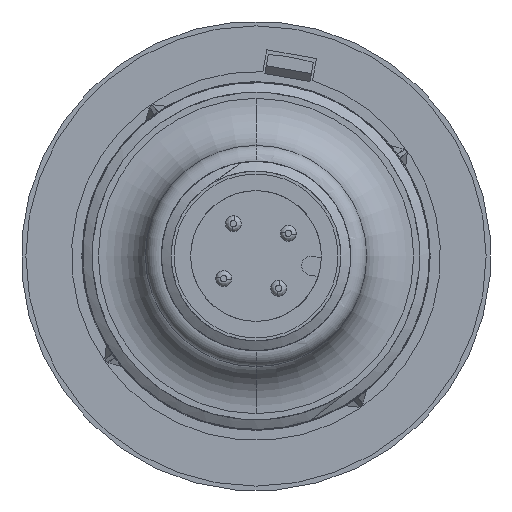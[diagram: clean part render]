
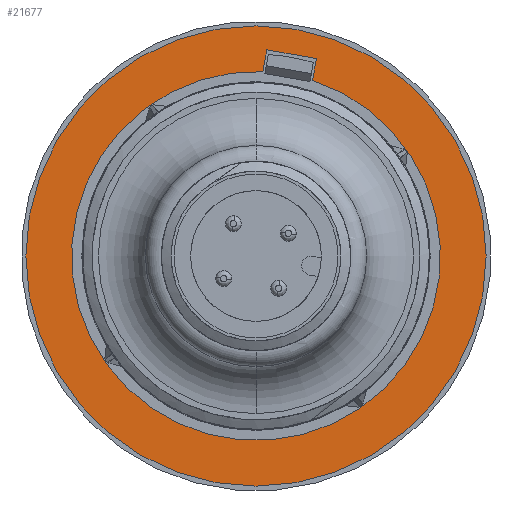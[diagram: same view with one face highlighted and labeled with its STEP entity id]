
A CAD part, front view. The second image highlights one B-rep face of the part: STEP entity #21677.
In plain terms, the highlighted planar face has unit normal (0, -1, 0).
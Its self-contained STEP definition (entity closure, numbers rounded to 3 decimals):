
#302=CARTESIAN_POINT('',(0.,-1.9,0.));
#303=DIRECTION('',(0.,1.,0.));
#304=DIRECTION('',(0.985,0.,-0.174));
#305=AXIS2_PLACEMENT_3D('',#302,#303,#304);
#307=CARTESIAN_POINT('',(0.,-1.9,0.));
#308=DIRECTION('',(0.,1.,0.));
#309=DIRECTION('',(-0.985,0.,0.174));
#310=AXIS2_PLACEMENT_3D('',#307,#308,#309);
#312=DIRECTION('',(0.174,0.,0.985));
#313=VECTOR('',#312,1.41);
#314=CARTESIAN_POINT('',(0.437,-1.9,11.692));
#315=LINE('',#314,#313);
#316=DIRECTION('',(-0.174,0.,-0.985));
#317=VECTOR('',#316,1.41);
#318=CARTESIAN_POINT('',(3.833,-1.9,12.525));
#319=LINE('',#318,#317);
#320=DIRECTION('',(0.985,0.,-0.174));
#321=VECTOR('',#320,3.2);
#322=CARTESIAN_POINT('',(0.682,-1.9,13.08));
#323=LINE('',#322,#321);
#508=CARTESIAN_POINT('',(0.,-1.9,0.));
#509=DIRECTION('',(0.,1.,0.));
#510=DIRECTION('',(0.307,0.,0.952));
#511=AXIS2_PLACEMENT_3D('',#508,#509,#510);
#20236=CARTESIAN_POINT('',(14.378,-1.9,-2.535));
#20237=CARTESIAN_POINT('',(-14.378,-1.9,2.535));
#20238=VERTEX_POINT('',#20236);
#20239=VERTEX_POINT('',#20237);
#20240=CARTESIAN_POINT('',(0.437,-1.9,11.692));
#20241=CARTESIAN_POINT('',(0.682,-1.9,13.08));
#20242=VERTEX_POINT('',#20240);
#20243=VERTEX_POINT('',#20241);
#20244=CARTESIAN_POINT('',(3.833,-1.9,12.525));
#20245=VERTEX_POINT('',#20244);
#20246=CARTESIAN_POINT('',(3.588,-1.9,11.136));
#20247=VERTEX_POINT('',#20246);
#21658=CARTESIAN_POINT('',(0.,-1.9,0.));
#21659=DIRECTION('',(0.,1.,0.));
#21660=DIRECTION('',(0.985,0.,-0.174));
#21661=AXIS2_PLACEMENT_3D('',#21658,#21659,#21660);
#21662=PLANE('',#21661);
#21663=ORIENTED_EDGE('',*,*,#21614,.T.);
#21664=ORIENTED_EDGE('',*,*,#21640,.T.);
#21665=EDGE_LOOP('',(#21663,#21664));
#21666=FACE_OUTER_BOUND('',#21665,.F.);
#21668=ORIENTED_EDGE('',*,*,#21667,.F.);
#21670=ORIENTED_EDGE('',*,*,#21669,.F.);
#21672=ORIENTED_EDGE('',*,*,#21671,.F.);
#21674=ORIENTED_EDGE('',*,*,#21673,.F.);
#21675=EDGE_LOOP('',(#21668,#21670,#21672,#21674));
#21676=FACE_BOUND('',#21675,.F.);
#21677=ADVANCED_FACE('',(#21666,#21676),#21662,.F.);
#306=CIRCLE('',#305,14.6);
#311=CIRCLE('',#310,14.6);
#512=CIRCLE('',#511,11.7);
#21614=EDGE_CURVE('',#20238,#20239,#306,.T.);
#21640=EDGE_CURVE('',#20239,#20238,#311,.T.);
#21667=EDGE_CURVE('',#20242,#20243,#315,.T.);
#21669=EDGE_CURVE('',#20247,#20242,#512,.T.);
#21671=EDGE_CURVE('',#20245,#20247,#319,.T.);
#21673=EDGE_CURVE('',#20243,#20245,#323,.T.);
